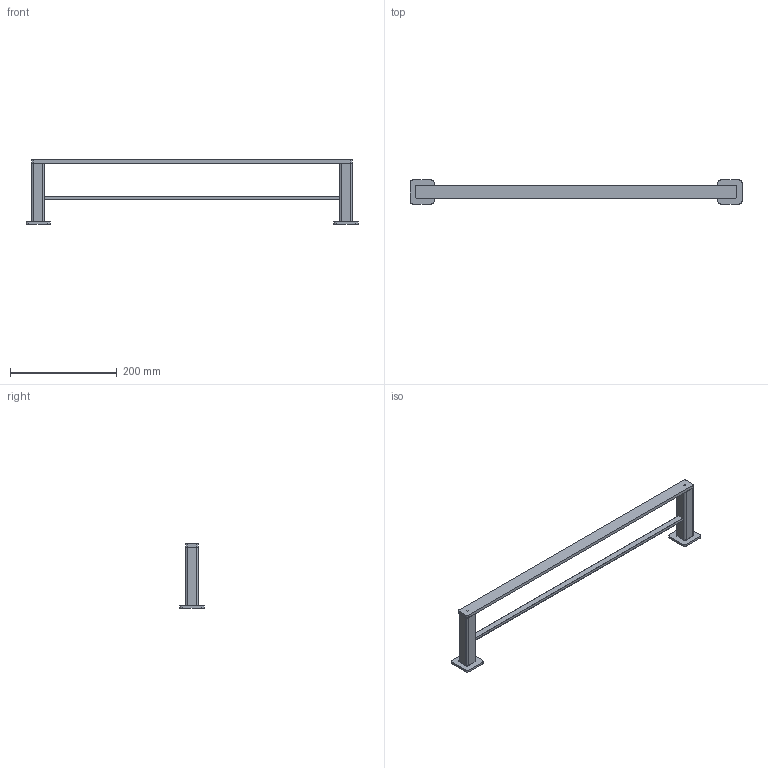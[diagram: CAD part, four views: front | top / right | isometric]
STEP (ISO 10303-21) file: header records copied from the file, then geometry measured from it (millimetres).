
FILE_DESCRIPTION(/* description */ (''),/* implementation_level */ '2;1');
FILE_NAME(/* name */ 'c:\worker\convert-fusion-apr-2019\tmp\job-1\10\output\files\552db27a-5b6c-4ef8-a1cd-c96515dfaefd\2deeca91-8d66-4913-aece-98edf55df8ef.zip.stp',/* time_stamp */ '2019-04-10T10:42:45+00:00',/* author */ (''),/* organization */ (''),/* preprocessor_version */ 'ST-DEVELOPER v18',/* originating_system */ 'Autodesk Translation Framework v8.2.0.1029',/* authorisation */ '');
FILE_SCHEMA (('AUTOMOTIVE_DESIGN { 1 0 10303 214 3 1 1 }'));
Length unit declared in the file: millimetre
Products named in the file (1): !NL80226
Bounding box: 620.7 x 45 x 120 mm (x, y, z)
Volume: 141513 mm3; surface area: 122875.8 mm2
Topology: 6 solids, 6 shells, 80 faces, 202 edges, 136 vertices
Faces by surface type: plane 50, cylinder 30
Full cylindrical faces by diameter (mm): 4.2 x2
Entity records: 2462 total; most frequent: DIRECTION 428, CARTESIAN_POINT 419, ORIENTED_EDGE 404, EDGE_CURVE 202, AXIS2_PLACEMENT_3D 145, LINE 138, VECTOR 138, VERTEX_POINT 136
